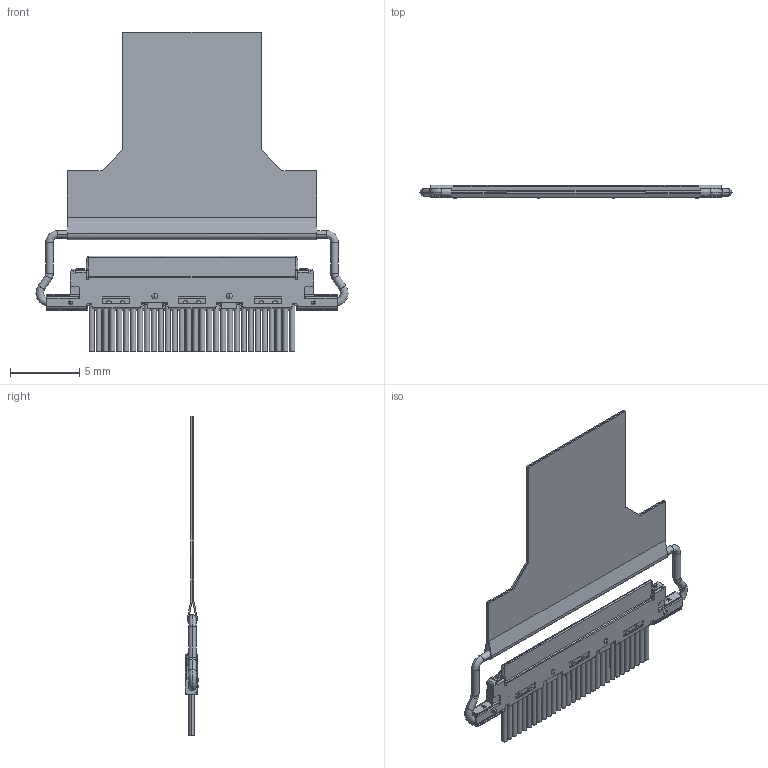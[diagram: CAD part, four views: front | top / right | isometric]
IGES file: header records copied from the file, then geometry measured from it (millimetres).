
Start section: SolidWorks IGES file using analytic representation for surfaces
Global section: file name: C:\3dwork\CAB-VS\20453-030T-x1C PLUG CABLE ASS'Y IGES R8R0R0 ALL.IGS; native system: SolidWorks 2011; preprocessor: SolidWorks 2011; author: kaihatsu-3dcad-2; date: 110930.114047; units: millimetre
Bounding box: 22.55 x 1 x 23.11 mm (x, y, z)
Surface area: 1160.6 mm2 (no closed solid volume)
Topology: 0 solids, 0 shells, 1626 faces, 11788 edges, 11780 vertices
Faces by surface type: bspline 1115, revolution 511
